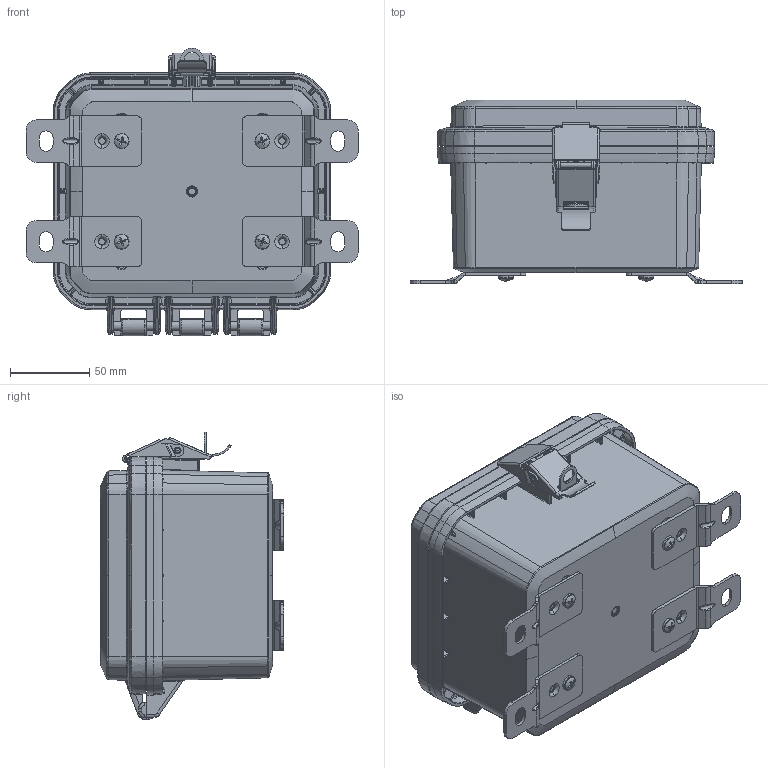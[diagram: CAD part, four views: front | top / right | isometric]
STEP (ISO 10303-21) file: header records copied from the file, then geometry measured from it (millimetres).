
FILE_DESCRIPTION (( 'STEP AP214' ), '1' );
FILE_NAME ('HP-060504-21.STEP', '2024-03-13T11:05:35', ( '' ), ( '' ), 'SwSTEP 2.0', 'SolidWorks 2024', '' );
FILE_SCHEMA (( 'AUTOMOTIVE_DESIGN' ));
Length unit declared in the file: inch
Products named in the file (16): HP-06051C_HP-06051C-01; ZH-01L; INSERTS-4; ZH-91F-01_ZH-91F-01; HP-0605xBI_HP-06053BI-01; HP-0605G; HP-060504-21; SCREWS-049_SCREWS-049; ZH-01L2; ZH-01L4; ZH-01L5; LABEL-105; HP-06051CG_HP-06051CG-01; ZH-01L1; HP-0605xB_HP-06053B-01; ZH-01L3
Assembly tree (24 placements, depth 3):
  HP-060504-21
    HP-0605xBI_HP-06053BI-01
      HP-0605xB_HP-06053B-01
      LABEL-105
      INSERTS-4  x4
    HP-06051CG_HP-06051CG-01
      HP-06051C_HP-06051C-01
      HP-0605G
    ZH-01L
      ZH-01L1
      ZH-01L2
      ZH-01L3
      ZH-01L4
      ZH-01L5
    SCREWS-049_SCREWS-049  x4
    ZH-91F-01_ZH-91F-01  x4
Bounding box: 209.55 x 115.78 x 181.57 mm (x, y, z)
Volume: 451948.1 mm3; surface area: 300457.7 mm2
Topology: 21 solids, 21 shells, 4558 faces, 10871 edges, 6310 vertices
Faces by surface type: bspline 1546, cylinder 1021, plane 997, torus 512, cone 334, sphere 148
Entity records: 171593 total; most frequent: CARTESIAN_POINT 90502, ORIENTED_EDGE 18926, DIRECTION 14526, EDGE_CURVE 9463, AXIS2_PLACEMENT_3D 5988, VERTEX_POINT 5473, EDGE_LOOP 4110, ADVANCED_FACE 4042
